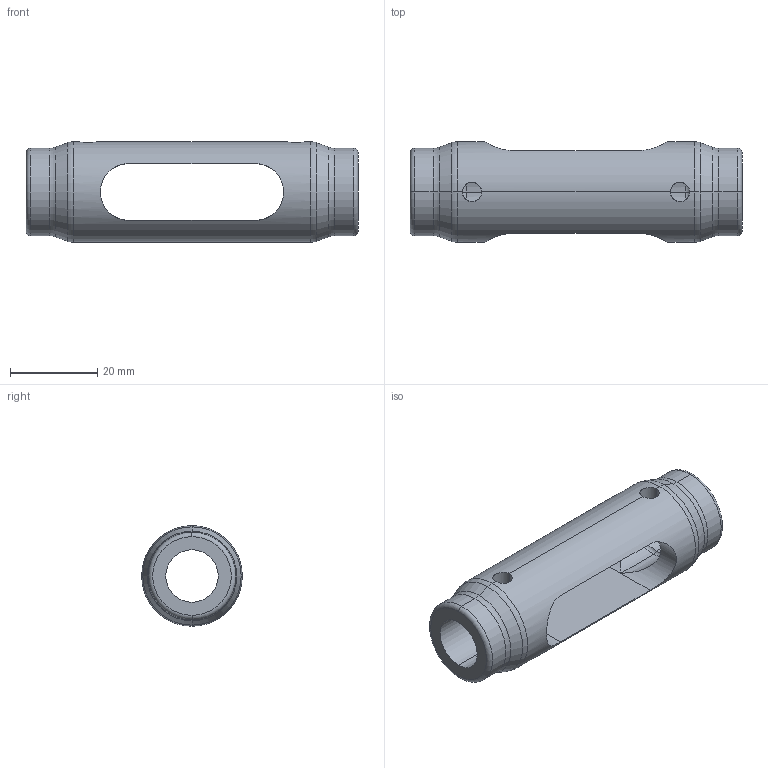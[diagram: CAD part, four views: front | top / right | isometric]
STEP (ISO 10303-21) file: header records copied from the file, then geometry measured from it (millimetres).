
FILE_DESCRIPTION (( 'STEP AP203' ), '1' );
FILE_NAME ('Kreuzmuffe M12.STEP', '2018-03-14T05:16:58', ( 'install' ), ( 'Hewlett-Packard Company' ), 'SwSTEP 2.0', 'SolidWorks 2017', '' );
FILE_SCHEMA (( 'CONFIG_CONTROL_DESIGN' ));
Length unit declared in the file: millimetre
Products named in the file (1): Kreuzmuffe M12
Bounding box: 76 x 23 x 23 mm (x, y, z)
Volume: 14350.3 mm3; surface area: 7860.5 mm2
Topology: 1 solids, 1 shells, 46 faces, 106 edges, 56 vertices
Faces by surface type: cylinder 22, torus 16, cone 4, plane 4
Entity records: 1733 total; most frequent: CARTESIAN_POINT 621, DIRECTION 230, ORIENTED_EDGE 212, EDGE_CURVE 106, AXIS2_PLACEMENT_3D 97, VERTEX_POINT 56, EDGE_LOOP 50, CIRCLE 50
